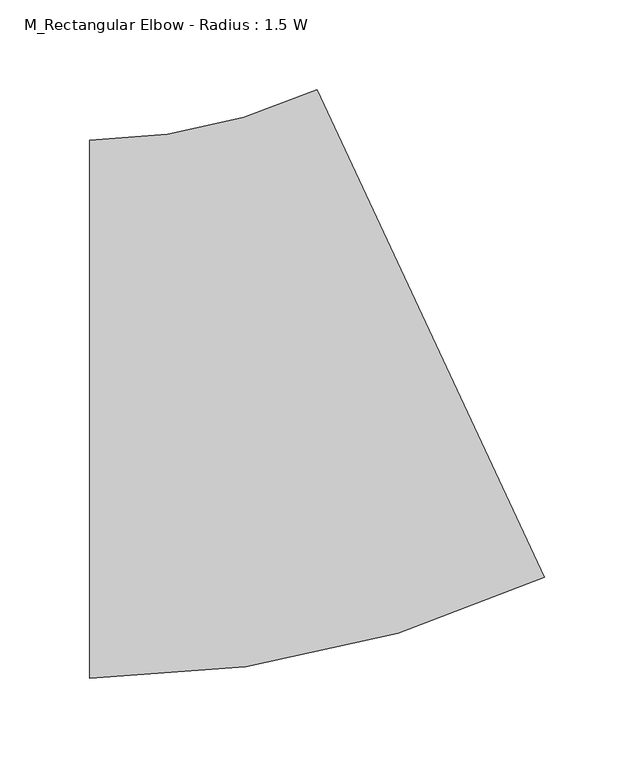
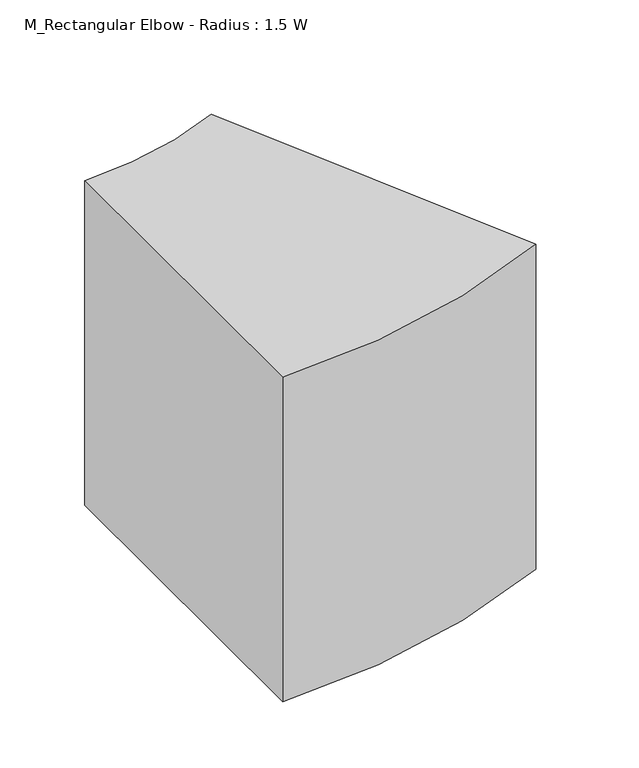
"""IFC4 building model written with IfcOpenShell, lengths in millimetres: duct fitting geometry, M_Rectangular Elbow - Radius : 1.5 W."""

from ifc_helpers import new_model, si_unit, point, frame, frame_2d, origin, place, context, project, spatial, polyline, circle_curve, trimmed, segment, composite_curve, outline, extrude, source, transform, mapped, element, save


def m_rectangular_elbow_radius_1_5_w_cf455037(model_context):
    return source(origin(), model_context, "Body", "SweptSolid", [
        extrude(outline(composite_curve([segment(trimmed(circle_curve(frame_2d((-99.7625982, 450.0)), 600.0), [point((153.8083589, -93.7846722))], [point((-99.7625982, -150.0))], False, "CARTESIAN"), True, "CONTINUOUS"), segment(polyline([(-99.7625982, -150.0), (-99.7625982, 150.0)]), True, "CONTINUOUS"), segment(trimmed(circle_curve(frame_2d((-99.7625982, 450.0)), 300.0), [point((-99.7625982, 150.0))], [point((27.0228803, 178.1076639))], True, "CARTESIAN"), True, "CONTINUOUS"), segment(polyline([(27.0228803, 178.1076639), (153.8083589, -93.7846722)]), True, "CONTINUOUS")], self_intersect=False)), frame((0.0, 0.0, -150.0), z_axis=(0.0, 0.0, 1.0), x_axis=(1.0, 0.0, 0.0)), (0.0, 0.0, 1.0), 300.0),
        extrude(outline(composite_curve([segment(trimmed(circle_curve(frame_2d((-99.7625982, 450.0)), 600.0), [point((153.8083589, -93.7846722))], [point((-99.7625982, -150.0))], False, "CARTESIAN"), True, "CONTINUOUS"), segment(polyline([(-99.7625982, -150.0), (-99.7625982, 150.0)]), True, "CONTINUOUS"), segment(trimmed(circle_curve(frame_2d((-99.7625982, 450.0)), 300.0), [point((-99.7625982, 150.0))], [point((27.0228803, 178.1076639))], True, "CARTESIAN"), True, "CONTINUOUS"), segment(polyline([(27.0228803, 178.1076639), (153.8083589, -93.7846722)]), True, "CONTINUOUS")], self_intersect=False)), frame((0.0, 0.0, -150.0), z_axis=(0.0, 0.0, 1.0), x_axis=(1.0, 0.0, 0.0)), (0.0, 0.0, 1.0), 300.0),
        extrude(outline(composite_curve([segment(trimmed(circle_curve(frame_2d((-99.7625982, 450.0)), 600.0), [point((153.8083589, -93.7846722))], [point((-99.7625982, -150.0))], False, "CARTESIAN"), True, "CONTINUOUS"), segment(polyline([(-99.7625982, -150.0), (-99.7625982, 150.0)]), True, "CONTINUOUS"), segment(trimmed(circle_curve(frame_2d((-99.7625982, 450.0)), 300.0), [point((-99.7625982, 150.0))], [point((27.0228803, 178.1076639))], True, "CARTESIAN"), True, "CONTINUOUS"), segment(polyline([(27.0228803, 178.1076639), (153.8083589, -93.7846722)]), True, "CONTINUOUS")], self_intersect=False)), frame((0.0, 0.0, -150.0), z_axis=(0.0, 0.0, 1.0), x_axis=(1.0, 0.0, 0.0)), (0.0, 0.0, 1.0), 300.0),
    ])


if __name__ == "__main__":
    model = new_model("IFC4")
    model_context = context("Model", 3, world=origin())
    ifc_project = project(units=[si_unit("LENGTHUNIT", "METRE", prefix="MILLI")], contexts=[model_context])
    site = spatial("IfcSite", under=ifc_project)
    building = spatial("IfcBuilding", under=site)
    placement = place(None, origin())
    m_rectangular_elbow_radius_1_5_w_shape = m_rectangular_elbow_radius_1_5_w_cf455037(model_context)
    element("IfcDuctFitting", 1, ObjectType="M_Rectangular Elbow - Radius : 1.5 W", at=placement, inside=building, context=model_context, shape_type="MappedRepresentation", body=[
        mapped(m_rectangular_elbow_radius_1_5_w_shape, transform((0.0, 0.0, 0.0), x_axis=(1.0, 0.0, 0.0), y_axis=(0.0, 1.0, 0.0), z_axis=(0.0, 0.0, 1.0))),
    ])
    save(model, "model.ifc")
